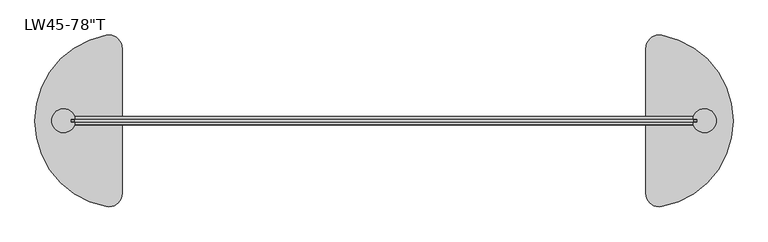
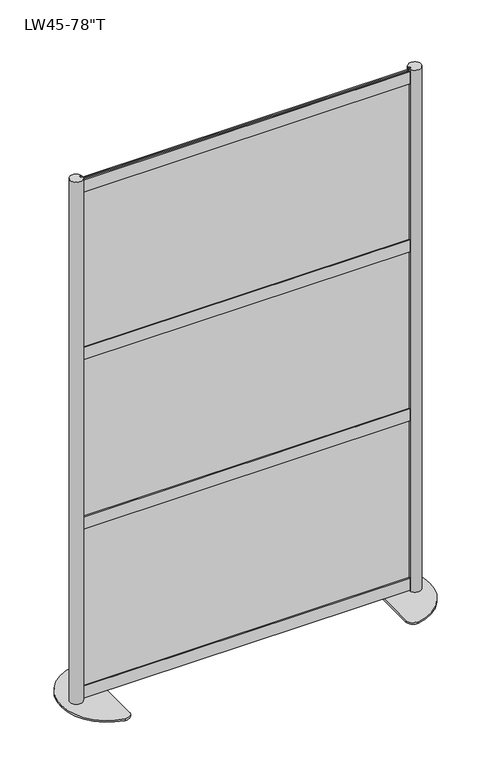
"""IFC4 building model written with IfcOpenShell, lengths in millimetres: furniture geometry."""

from ifc_helpers import new_model, si_unit, point, frame, frame_2d, origin, origin_with_axes, place, context, project, spatial, polyline, circle_curve, trimmed, segment, composite_curve, outline, extrude, source, transform, mapped, element, save


def furniture_1973c1a8(model_context):
    return source(origin(), model_context, "Body", "SweptSolid", [
        extrude(outline(polyline([(594.51875, -1.5875), (-594.51875, -1.5875), (-594.51875, 1.5875), (594.51875, 1.5875), (594.51875, -1.5875)])), frame((0.0, 0.0, 1324.2670292), z_axis=(0.0, 0.0, 1.0), x_axis=(1.0, 0.0, 0.0)), (0.0, 0.0, 1.0), 608.965),
        extrude(outline(polyline([(594.51875, -1.5875), (-594.51875, -1.5875), (-594.51875, 1.5875), (594.51875, 1.5875), (594.51875, -1.5875)])), frame((0.0, 0.0, 689.2671), z_axis=(0.0, 0.0, 1.0), x_axis=(1.0, 0.0, 0.0)), (0.0, 0.0, 1.0), 608.965),
        extrude(outline(polyline([(594.51875, -1.5875), (-594.51875, -1.5875), (-594.51875, 1.5875), (594.51875, 1.5875), (594.51875, -1.5875)])), frame((0.0, 0.0, 49.2633), z_axis=(0.0, 0.0, 1.0), x_axis=(1.0, 0.0, 0.0)), (0.0, 0.0, 1.0), 608.965),
        extrude(outline(polyline([(3.556, 651.1163), (3.556, 658.2283), (-3.556, 658.2283), (-3.556, 651.1163), (-7.6327, 651.1163), (-7.6327, 696.3791), (-3.556, 696.3791), (-3.556, 689.2671), (3.556, 689.2671), (3.556, 696.3791), (7.6327, 696.3791), (7.6327, 651.1163), (3.556, 651.1163)])), frame((-584.9874, 0.0, 0.0), z_axis=(1.0, 0.0, 0.0), x_axis=(0.0, 1.0, 0.0)), (0.0, 0.0, 1.0), 1169.9748),
        extrude(outline(polyline([(3.556, 1291.1201), (3.556, 1298.2321), (-3.556, 1298.2321), (-3.556, 1291.1201), (-7.6327, 1291.1201), (-7.6327, 1336.3829), (-3.556, 1336.3829), (-3.556, 1329.2709), (3.556, 1329.2709), (3.556, 1336.3829), (7.6327, 1336.3829), (7.6327, 1291.1201), (3.556, 1291.1201)])), frame((-584.9874, 0.0, 0.0), z_axis=(1.0, 0.0, 0.0), x_axis=(0.0, 1.0, 0.0)), (0.0, 0.0, 1.0), 1169.9748),
        extrude(outline(polyline([(3.556, 11.1125), (3.556, 18.2245), (-3.556, 18.2245), (-3.556, 11.1125), (-7.6327, 11.1125), (-7.6327, 56.3753), (-3.556, 56.3753), (-3.556, 49.2633), (3.556, 49.2633), (3.556, 56.3753), (7.6327, 56.3753), (7.6327, 11.1125), (3.556, 11.1125)])), frame((-585.0636, 0.0, 0.0), z_axis=(1.0, 0.0, 0.0), x_axis=(0.0, 1.0, 0.0)), (0.0, 0.0, 1.0), 1170.1272),
        extrude(outline(polyline([(3.556, 1926.1200292), (3.556, 1933.2320292), (-3.556, 1933.2320292), (-3.556, 1926.1200292), (-7.6327, 1926.1200292), (-7.6327, 1971.3828292), (-3.556, 1971.3828292), (-3.556, 1964.2708292), (3.556, 1964.2708292), (3.556, 1971.3828292), (7.6327, 1971.3828292), (7.6327, 1926.1200292), (3.556, 1926.1200292)])), frame((-585.0636, 0.0, 0.0), z_axis=(1.0, 0.0, 0.0), x_axis=(0.0, 1.0, 0.0)), (0.0, 0.0, 1.0), 1170.1272),
        extrude(outline(composite_curve([segment(polyline([(585.0636, -7.7568093), (585.0636, -3.556), (592.1756, -3.556), (592.1756, 3.556), (585.0636, 3.556), (585.0636, 7.7568093)]), True, "CONTINUOUS"), segment(trimmed(circle_curve(frame_2d((606.1665837, 0.0)), 22.4834163), [point((585.0636, 7.7568093))], [point((585.0636, -7.7568093))], False, "CARTESIAN"), True, "CONTINUOUS")], self_intersect=False)), frame((0.0, 0.0, 6.35), z_axis=(0.0, 0.0, 1.0), x_axis=(1.0, 0.0, 0.0)), (0.0, 0.0, 1.0), 1974.85),
        extrude(outline(composite_curve([segment(polyline([(495.3, -137.3715036), (495.3, 137.3715036)]), True, "CONTINUOUS"), segment(trimmed(circle_curve(frame_2d((520.7, 137.3715036)), 25.4), [point((495.3, 137.3715036))], [point((525.3181818, 162.3481406))], False, "CARTESIAN"), True, "CONTINUOUS"), segment(trimmed(circle_curve(frame_2d((495.3, 0.0)), 165.1), [point((525.3181818, 162.3481406))], [point((660.4, 0.0))], False, "CARTESIAN"), True, "CONTINUOUS"), segment(trimmed(circle_curve(frame_2d((495.3, 0.0)), 165.1), [point((660.4, 0.0))], [point((525.3181818, -162.3481406))], False, "CARTESIAN"), True, "CONTINUOUS"), segment(trimmed(circle_curve(frame_2d((520.7, -137.3715036)), 25.4), [point((525.3181818, -162.3481406))], [point((495.3, -137.3715036))], False, "CARTESIAN"), True, "CONTINUOUS")], self_intersect=False)), origin_with_axes(), (0.0, 0.0, 1.0), 6.35),
        extrude(outline(composite_curve([segment(trimmed(circle_curve(frame_2d((-606.1665837, 0.0)), 22.4834163), [point((-585.0636, -7.7568093))], [point((-585.0636, 7.7568093))], False, "CARTESIAN"), True, "CONTINUOUS"), segment(polyline([(-585.0636, 7.7568093), (-585.0636, 3.556), (-592.1756, 3.556), (-592.1756, -3.556), (-585.0636, -3.556), (-585.0636, -7.7568093)]), True, "CONTINUOUS")], self_intersect=False)), frame((0.0, 0.0, 6.35), z_axis=(0.0, 0.0, 1.0), x_axis=(1.0, 0.0, 0.0)), (0.0, 0.0, 1.0), 1974.85),
        extrude(outline(composite_curve([segment(trimmed(circle_curve(frame_2d((-520.7, -137.3715036)), 25.4), [point((-495.3, -137.3715036))], [point((-525.3181818, -162.3481406))], False, "CARTESIAN"), True, "CONTINUOUS"), segment(trimmed(circle_curve(frame_2d((-495.3, 0.0)), 165.1), [point((-525.3181818, -162.3481406))], [point((-660.4, 0.0))], False, "CARTESIAN"), True, "CONTINUOUS"), segment(trimmed(circle_curve(frame_2d((-495.3, 0.0)), 165.1), [point((-660.4, 0.0))], [point((-525.3181818, 162.3481406))], False, "CARTESIAN"), True, "CONTINUOUS"), segment(trimmed(circle_curve(frame_2d((-520.7, 137.3715036)), 25.4), [point((-525.3181818, 162.3481406))], [point((-495.3, 137.3715036))], False, "CARTESIAN"), True, "CONTINUOUS"), segment(polyline([(-495.3, 137.3715036), (-495.3, -137.3715036)]), True, "CONTINUOUS")], self_intersect=False)), origin_with_axes(), (0.0, 0.0, 1.0), 6.35),
    ])


if __name__ == "__main__":
    model = new_model("IFC4")
    model_context = context("Model", 3, world=origin())
    ifc_project = project(units=[si_unit("LENGTHUNIT", "METRE", prefix="MILLI")], contexts=[model_context])
    site = spatial("IfcSite", under=ifc_project)
    building = spatial("IfcBuilding", under=site)
    placement = place(None, origin())
    furniture_shape = furniture_1973c1a8(model_context)
    element("IfcFurniture", 1, ObjectType="Loft_Wall-Framewall-52 : LW45-78\"T", at=placement, inside=building, context=model_context, shape_type="MappedRepresentation", body=[
        mapped(furniture_shape, transform((0.0, 0.0, 0.0), x_axis=(1.0, 0.0, 0.0), y_axis=(0.0, 1.0, 0.0), z_axis=(0.0, 0.0, 1.0))),
    ])
    save(model, "model.ifc")
